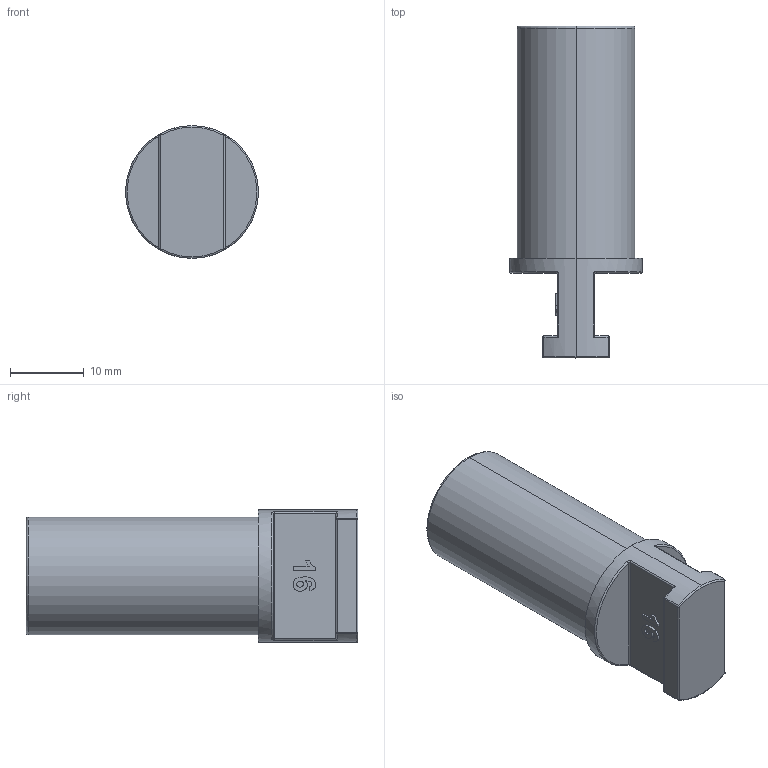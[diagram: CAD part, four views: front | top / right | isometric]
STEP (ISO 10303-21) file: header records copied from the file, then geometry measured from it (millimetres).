
FILE_DESCRIPTION (( 'STEP AP214' ), '1' );
FILE_NAME ('506100031Y5ROA.STEP', '2020-12-14T07:14:54', ( 'admin' ), ( '' ), 'SwSTEP 2.0', 'SolidWorks 2016', '' );
FILE_SCHEMA (( 'AUTOMOTIVE_DESIGN' ));
Length unit declared in the file: millimetre
Products named in the file (1): 506100031Y5ROA
Bounding box: 18 x 45 x 18 mm (x, y, z)
Volume: 3928.7 mm3; surface area: 4024.4 mm2
Topology: 1 solids, 1 shells, 79 faces, 188 edges, 108 vertices
Faces by surface type: plane 21, cylinder 18, bspline 18, torus 12, sphere 8, cone 2
Entity records: 2956 total; most frequent: CARTESIAN_POINT 1242, ORIENTED_EDGE 360, DIRECTION 328, EDGE_CURVE 180, AXIS2_PLACEMENT_3D 130, VERTEX_POINT 108, EDGE_LOOP 84, FACE_OUTER_BOUND 79
